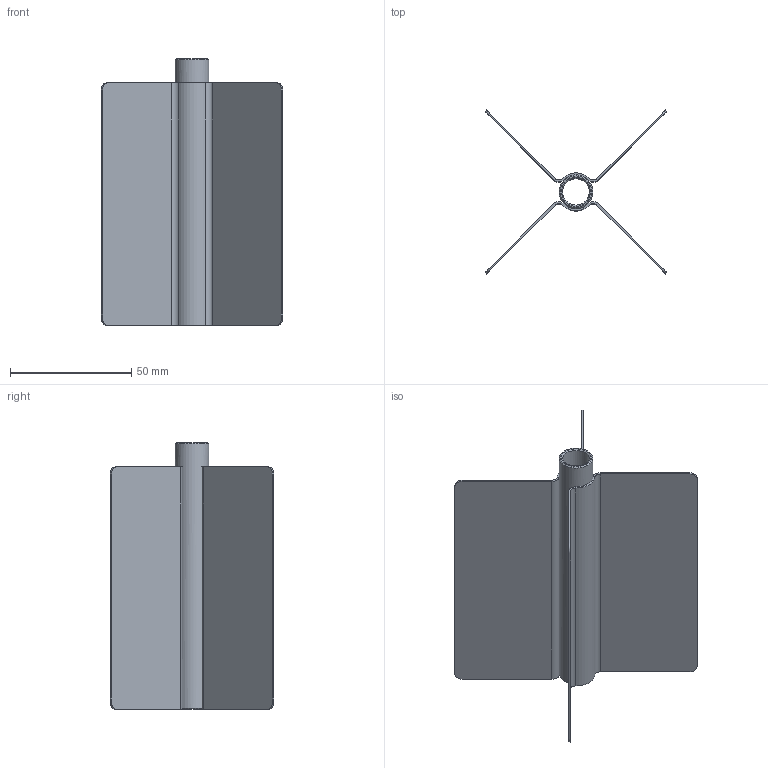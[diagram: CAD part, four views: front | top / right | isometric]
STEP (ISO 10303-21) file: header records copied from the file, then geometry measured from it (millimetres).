
FILE_DESCRIPTION(/* description */ (''),/* implementation_level */ '2;1');
FILE_NAME(/* name */ 'AC5L-INOX.stp',/* time_stamp */ '2024-03-22T11:22:02+01:00',/* author */ ('filippo.guidetti'),/* organization */ (''),/* preprocessor_version */ 'ST-DEVELOPER v20',/* originating_system */ 'Autodesk Inventor 2024',/* authorisation */ '');
FILE_SCHEMA (('AUTOMOTIVE_DESIGN { 1 0 10303 214 3 1 1 }'));
Length unit declared in the file: millimetre
Products named in the file (1): AC5L-INOX
Bounding box: 74.95 x 67.6 x 110 mm (x, y, z)
Volume: 22368.8 mm3; surface area: 44829.2 mm2
Topology: 1 solids, 1 shells, 49 faces, 139 edges, 92 vertices
Faces by surface type: cylinder 23, plane 22, cone 4
Full cylindrical faces by diameter (mm): 5.5 x1, 11 x1, 14 x1
Entity records: 1769 total; most frequent: CARTESIAN_POINT 326, DIRECTION 295, ORIENTED_EDGE 278, EDGE_CURVE 139, AXIS2_PLACEMENT_3D 111, VERTEX_POINT 92, LINE 73, VECTOR 73
